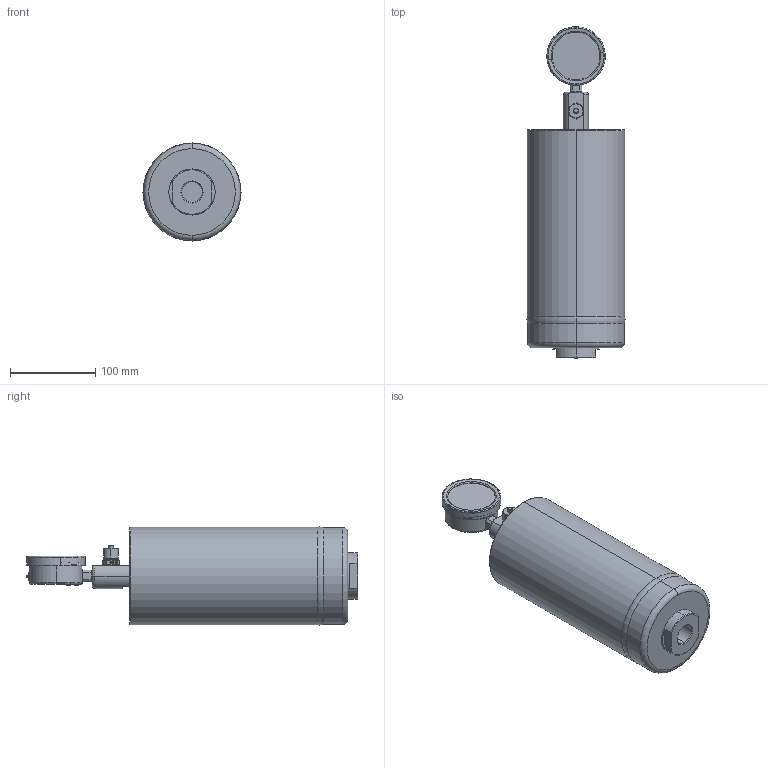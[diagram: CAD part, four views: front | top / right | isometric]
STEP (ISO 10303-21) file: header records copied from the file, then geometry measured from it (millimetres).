
FILE_DESCRIPTION (( 'STEP AP214' ), '1' );
FILE_NAME ('U015G11X1-AI (DGA).STEP', '2025-05-14T14:54:54', ( '' ), ( '' ), 'SwSTEP 2.0', 'SolidWorks 2024', '' );
FILE_SCHEMA (( 'AUTOMOTIVE_DESIGN' ));
Length unit declared in the file: millimetre
Products named in the file (1): U015G11X1-AI (DGA)
Bounding box: 114.71 x 388.45 x 114.71 mm (x, y, z)
Surface area: 166200.6 mm2 (no closed solid volume)
Topology: 0 solids, 16 shells, 430 faces, 1083 edges, 671 vertices
Faces by surface type: cylinder 126, plane 125, cone 75, torus 55, bspline 36, sphere 13
Entity records: 18294 total; most frequent: CARTESIAN_POINT 3272, DIRECTION 2235, ORIENTED_EDGE 1995, EDGE_CURVE 1072, AXIS2_PLACEMENT_3D 916, VERTEX_POINT 671, CIRCLE 521, EDGE_LOOP 488
